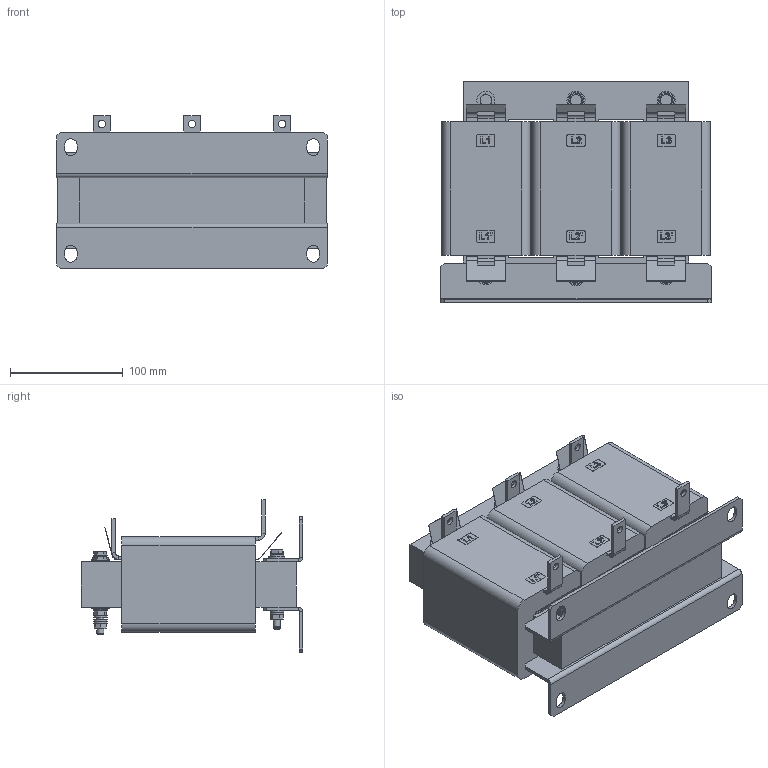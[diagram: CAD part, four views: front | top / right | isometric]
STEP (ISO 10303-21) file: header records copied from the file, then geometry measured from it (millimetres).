
FILE_DESCRIPTION(/* description */ ('raw material description'),/* implementation_level */ '2;1');
FILE_NAME(/* name */ 'P:\Construction\Filter_Marketing\RWK\RWK3044_RWK3062\RWK3044\RWK3044-88-99-E0XXX.stp',/* time_stamp */ '2018-08-27T10:22:13+02:00',/* author */ ('Erika.Jenzer'),/* organization */ ('Schaffner EMV AG'),/* preprocessor_version */ 'ST-DEVELOPER v16.5',/* originating_system */ 'Autodesk Inventor 2017',/* authorisation */ '');
FILE_SCHEMA (('AUTOMOTIVE_DESIGN { 1 0 10303 214 3 1 1 }'));
Length unit declared in the file: millimetre
Products named in the file (1): RWK3044-88-99-E0XXX
Bounding box: 240 x 196.6 x 135.55 mm (x, y, z)
Volume: 3049928.6 mm3; surface area: 279074.7 mm2
Topology: 1 solids, 13 shells, 1033 faces, 2577 edges, 1695 vertices
Faces by surface type: plane 733, cylinder 172, cone 71, bspline 50, torus 7
Full cylindrical faces by diameter (mm): 6 x19, 6.1 x6, 6.4 x14, 6.6 x6, 7.6 x5, 8.4 x3, 8.5 x4, 8.7 x6, 12 x12, 13 x1, 14 x5, 16 x4
Entity records: 30903 total; most frequent: CARTESIAN_POINT 6494, ORIENTED_EDGE 4858, DIRECTION 4436, EDGE_CURVE 2422, VERTEX_POINT 1662, LINE 1544, VECTOR 1544, AXIS2_PLACEMENT_3D 1446
